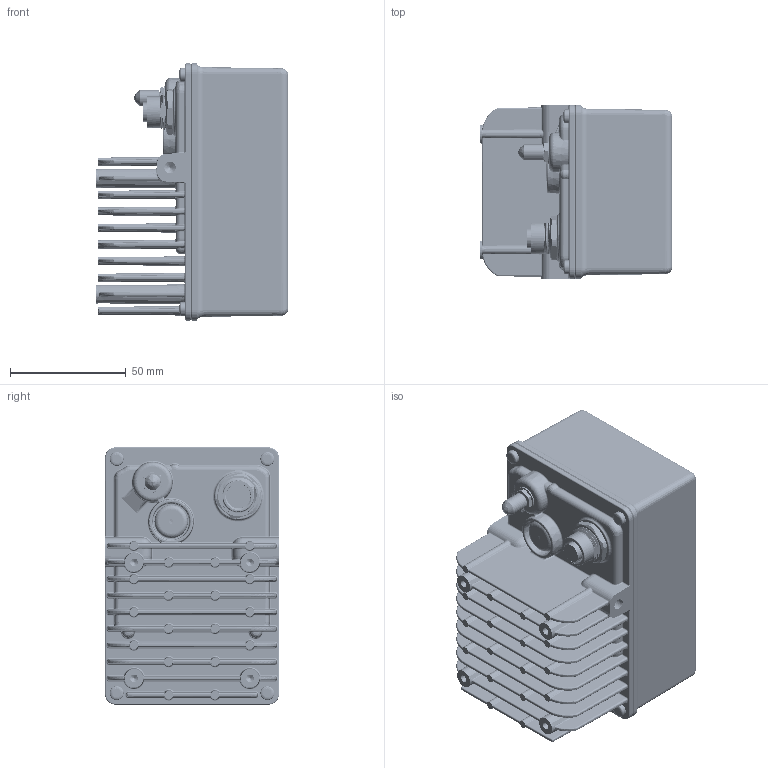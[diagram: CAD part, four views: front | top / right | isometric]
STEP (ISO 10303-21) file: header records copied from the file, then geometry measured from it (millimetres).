
FILE_DESCRIPTION(/* description */ (''),/* implementation_level */ '2;1');
FILE_NAME(/* name */ '10000443_ETR_A.stp',/* time_stamp */ '2023-03-09T09:45:13+01:00',/* author */ ('Menz'),/* organization */ (''),/* preprocessor_version */ 'ST-DEVELOPER v19.2',/* originating_system */ 'Autodesk Inventor 2023',/* authorisation */ '');
FILE_SCHEMA (('AUTOMOTIVE_DESIGN { 1 0 10303 214 3 1 1 }'));
Products named in the file (1): 10000443_simplified
Bounding box: 83 x 75 x 111 mm (x, y, z)
Volume: 416107.7 mm3; surface area: 116608.7 mm2
Topology: 11 solids, 11 shells, 2414 faces, 6153 edges, 3678 vertices
Faces by surface type: cylinder 801, bspline 678, plane 367, torus 206, cone 198, sphere 164
Full cylindrical faces by diameter (mm): 0.9 x1, 3 x28, 3.242 x4, 4.7 x1, 4.978 x2, 5.3 x1, 6 x4, 6.5 x2, 6.9 x1, 7.3 x1, 8.25 x1, 9.8 x1, 10.2 x1, 10.517 x5, 10.9 x1, 12.425 x1, 13 x1, 13.5 x1, 14.4 x1, 20 x1
Entity records: 140464 total; most frequent: CARTESIAN_POINT 83982, ORIENTED_EDGE 12088, DIRECTION 10336, EDGE_CURVE 6044, AXIS2_PLACEMENT_3D 4371, VERTEX_POINT 3678, EDGE_LOOP 2482, CIRCLE 2444
